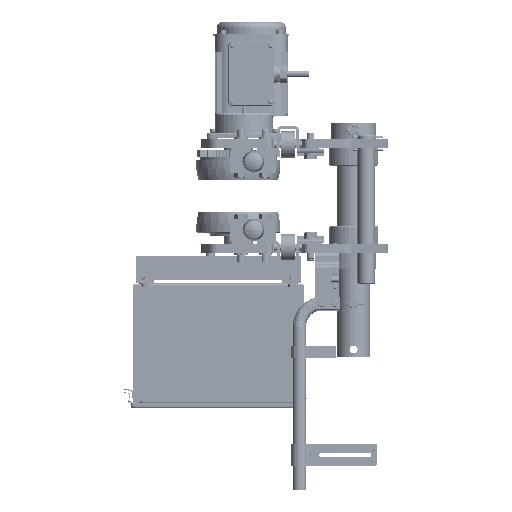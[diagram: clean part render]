
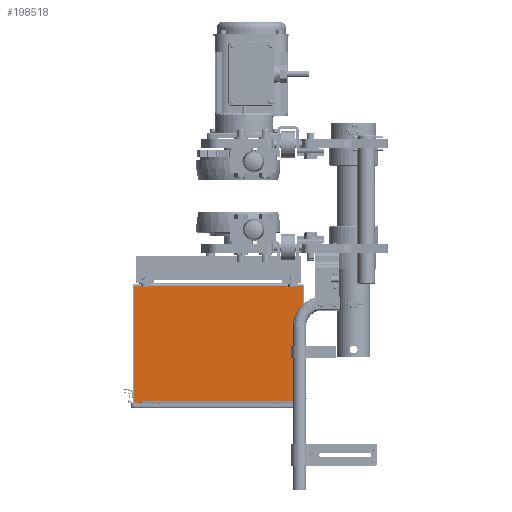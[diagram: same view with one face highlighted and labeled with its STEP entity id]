
A CAD part, left-side view. The second image highlights one B-rep face of the part: STEP entity #198518.
In plain terms, the highlighted planar face has unit normal (-1, 0, 0) as drawn and (1, 0, 0) by its records, which use the part's own axes.
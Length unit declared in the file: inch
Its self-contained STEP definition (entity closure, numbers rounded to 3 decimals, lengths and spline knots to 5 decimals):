
#1237 = ORIENTED_EDGE ( 'NONE', *, *, #19235, .F. ) ;
#10026 = EDGE_CURVE ( 'NONE', #32419, #163513, #55240, .T. ) ;
#13413 = ORIENTED_EDGE ( 'NONE', *, *, #52018, .F. ) ;
#16321 = FACE_OUTER_BOUND ( 'NONE', #206459, .T. ) ;
#17484 = DIRECTION ( 'NONE',  ( -1., 0., 0. ) ) ;
#18823 = DIRECTION ( 'NONE',  ( 0., 1., 0. ) ) ;
#19235 = EDGE_CURVE ( 'NONE', #142080, #32419, #238969, .T. ) ;
#21892 = AXIS2_PLACEMENT_3D ( 'NONE', #95203, #17484, #145193 ) ;
#27094 = DIRECTION ( 'NONE',  ( 0., 0., -1. ) ) ;
#31846 = VERTEX_POINT ( 'NONE', #41050 ) ;
#32419 = VERTEX_POINT ( 'NONE', #47644 ) ;
#41050 = CARTESIAN_POINT ( 'NONE',  ( 0.59411, 7.16686, -1.19916 ) ) ;
#47644 = CARTESIAN_POINT ( 'NONE',  ( 0.59411, -2.50914, 12.6467 ) ) ;
#52018 = EDGE_CURVE ( 'NONE', #31846, #142080, #200161, .T. ) ;
#52870 = CARTESIAN_POINT ( 'NONE',  ( 0.59411, -2.50914, -1.27823 ) ) ;
#54297 = EDGE_CURVE ( 'NONE', #163513, #31846, #118267, .T. ) ;
#55129 = VECTOR ( 'NONE', #162443, 39.37008 ) ;
#55240 = LINE ( 'NONE', #220690, #122141 ) ;
#57769 = CARTESIAN_POINT ( 'NONE',  ( 0.59411, -2.50914, -1.19916 ) ) ;
#65146 = ORIENTED_EDGE ( 'NONE', *, *, #10026, .F. ) ;
#73517 = DIRECTION ( 'NONE',  ( 0., -1., 0. ) ) ;
#95203 = CARTESIAN_POINT ( 'NONE',  ( 0.59411, 7.16686, -81.29823 ) ) ;
#95924 = CARTESIAN_POINT ( 'NONE',  ( 0.59411, 7.16686, 12.6467 ) ) ;
#118267 = LINE ( 'NONE', #230176, #193409 ) ;
#122141 = VECTOR ( 'NONE', #18823, 39.37008 ) ;
#142080 = VERTEX_POINT ( 'NONE', #57769 ) ;
#145193 = DIRECTION ( 'NONE',  ( 0., -1., 0. ) ) ;
#162443 = DIRECTION ( 'NONE',  ( 0., 0., 1. ) ) ;
#163513 = VERTEX_POINT ( 'NONE', #95924 ) ;
#167100 = ORIENTED_EDGE ( 'NONE', *, *, #54297, .F. ) ;
#181421 = VECTOR ( 'NONE', #73517, 39.37008 ) ;
#193409 = VECTOR ( 'NONE', #27094, 39.37008 ) ;
#198518 = ADVANCED_FACE ( 'NONE', ( #16321 ), #204693, .F. ) ;
#200161 = LINE ( 'NONE', #240203, #181421 ) ;
#204693 = PLANE ( 'NONE',  #21892 ) ;
#206459 = EDGE_LOOP ( 'NONE', ( #1237, #13413, #167100, #65146 ) ) ;
#220690 = CARTESIAN_POINT ( 'NONE',  ( 0.59411, 7.16686, 12.6467 ) ) ;
#230176 = CARTESIAN_POINT ( 'NONE',  ( 0.59411, 7.16686, -81.29823 ) ) ;
#238969 = LINE ( 'NONE', #52870, #55129 ) ;
#240203 = CARTESIAN_POINT ( 'NONE',  ( 0.59411, 7.16686, -1.19916 ) ) ;
